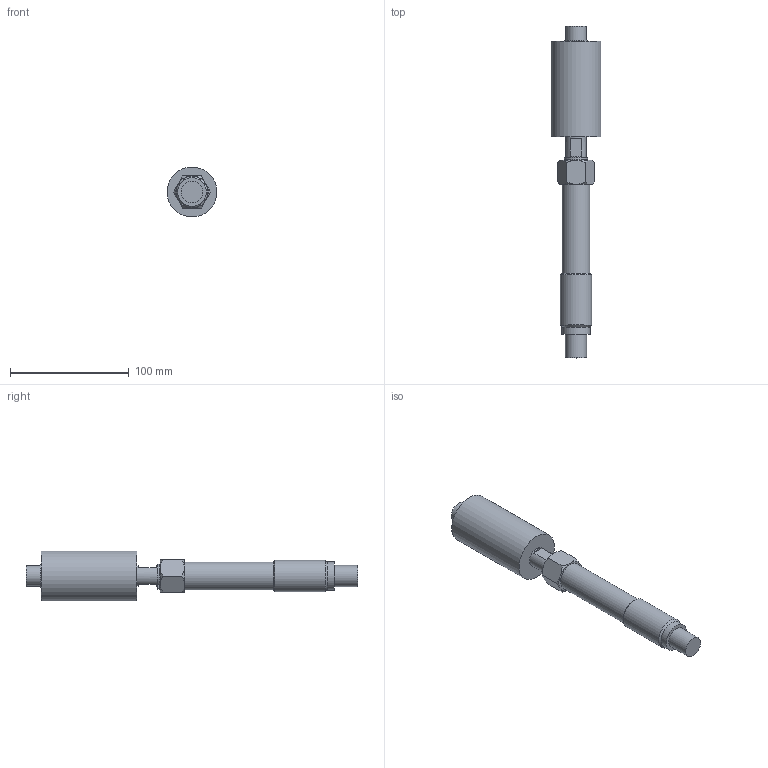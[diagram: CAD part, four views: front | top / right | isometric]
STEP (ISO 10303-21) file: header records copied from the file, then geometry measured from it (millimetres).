
FILE_DESCRIPTION (( 'STEP AP203' ), '1' );
FILE_NAME ('YICZ100PHLLLA-1(0).STEP', '2023-08-08T08:11:45', ( '' ), ( '' ), 'SwSTEP 2.0', 'SolidWorks 2021', '' );
FILE_SCHEMA (( 'CONFIG_CONTROL_DESIGN' ));
Length unit declared in the file: millimetre
Products named in the file (1): YICZ100PHLLLA-1(0)
Bounding box: 41.99 x 279 x 41.99 mm (x, y, z)
Volume: 191630.2 mm3; surface area: 44456.1 mm2
Topology: 1 solids, 1 shells, 63 faces, 147 edges, 97 vertices
Faces by surface type: plane 31, cylinder 16, cone 15, torus 1
Full cylindrical faces by diameter (mm): 1.7 x2, 16.2 x1, 17 x3, 17.9 x1, 18 x1, 19 x1, 23.5 x1, 24 x1, 26.441 x1, 42 x1
Entity records: 1879 total; most frequent: CARTESIAN_POINT 460, DIRECTION 280, ORIENTED_EDGE 244, EDGE_CURVE 122, AXIS2_PLACEMENT_3D 118, EDGE_LOOP 96, VERTEX_POINT 90, FACE_OUTER_BOUND 77
